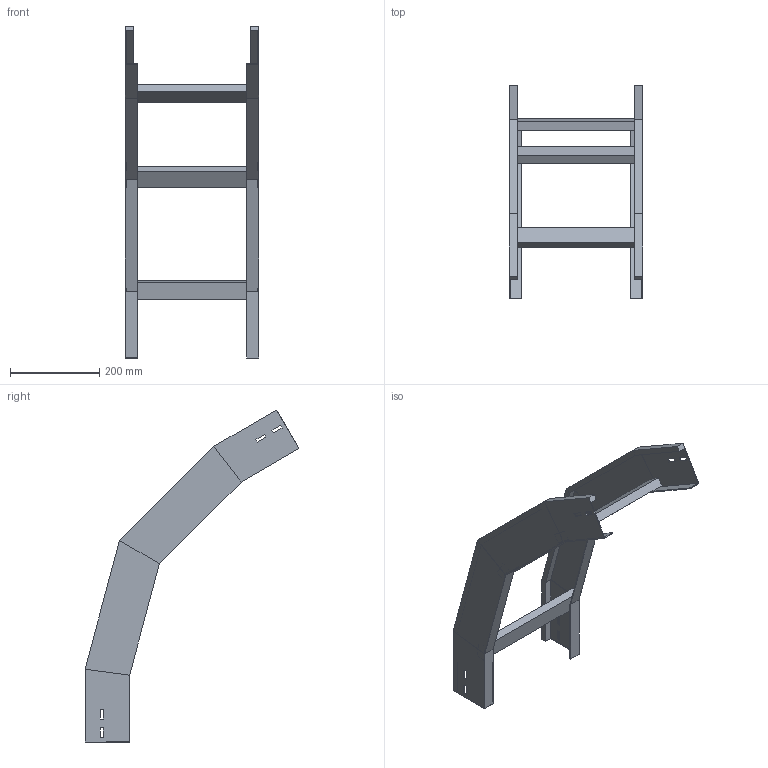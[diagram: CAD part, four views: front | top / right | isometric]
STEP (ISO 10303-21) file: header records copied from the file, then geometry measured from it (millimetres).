
FILE_DESCRIPTION (( 'STEP AP214' ), '1' );
FILE_NAME ('41B5D300.step', '2025-02-21T14:56:01', ( '' ), ( '' ), 'SwSTEP 2.0', 'SolidWorks 2023', '' );
FILE_SCHEMA (( 'AUTOMOTIVE_DESIGN' ));
Length unit declared in the file: millimetre
Products named in the file (3): TRAVERSINO_300; LONGH.DISCESA_60°_H100_R500; 41B5D300
Assembly tree (5 placements, depth 2):
  41B5D300
    LONGH.DISCESA_60°_H100_R500  x2
    TRAVERSINO_300  x3
Bounding box: 300 x 480.08 x 744.92 mm (x, y, z)
Volume: 1499636.7 mm3; surface area: 608609.5 mm2
Topology: 5 solids, 5 shells, 118 faces, 276 edges, 168 vertices
Faces by surface type: plane 118
Entity records: 1672 total; most frequent: CARTESIAN_POINT 276, ORIENTED_EDGE 264, DIRECTION 260, EDGE_CURVE 132, LINE 132, VECTOR 132, VERTEX_POINT 80, EDGE_LOOP 64
